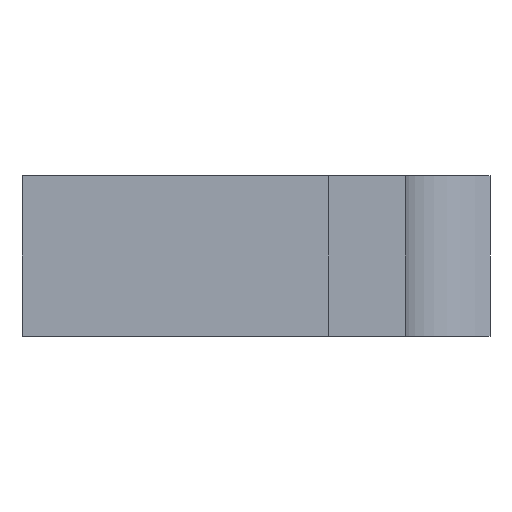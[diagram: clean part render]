
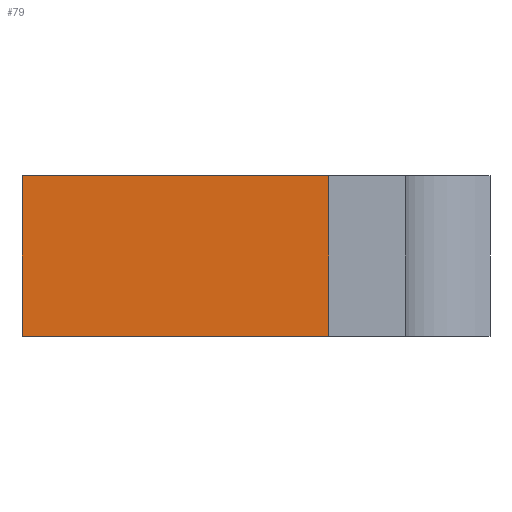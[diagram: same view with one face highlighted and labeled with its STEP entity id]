
A CAD part, front view. The second image highlights one B-rep face of the part: STEP entity #79.
In plain terms, the highlighted planar face has unit normal (0, -1, 0).
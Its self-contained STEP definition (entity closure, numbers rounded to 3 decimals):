
#5 = ORIENTED_EDGE ( 'NONE', *, *, #715, .F. ) ;
#13 = AXIS2_PLACEMENT_3D ( 'NONE', #502, #183, #891 ) ;
#45 = CARTESIAN_POINT ( 'NONE',  ( 0., 0., -10. ) ) ;
#47 = EDGE_CURVE ( 'NONE', #94, #341, #560, .T. ) ;
#79 = ADVANCED_FACE ( 'NONE', ( #83 ), #688, .T. ) ;
#83 = FACE_OUTER_BOUND ( 'NONE', #753, .T. ) ;
#94 = VERTEX_POINT ( 'NONE', #587 ) ;
#104 = DIRECTION ( 'NONE',  ( 0., 0., 1. ) ) ;
#183 = DIRECTION ( 'NONE',  ( 0., -1., 0. ) ) ;
#217 = VECTOR ( 'NONE', #365, 1000. ) ;
#341 = VERTEX_POINT ( 'NONE', #375 ) ;
#365 = DIRECTION ( 'NONE',  ( 1., 0., 0. ) ) ;
#375 = CARTESIAN_POINT ( 'NONE',  ( 19.844, 0., 0. ) ) ;
#390 = ORIENTED_EDGE ( 'NONE', *, *, #482, .T. ) ;
#425 = ORIENTED_EDGE ( 'NONE', *, *, #47, .F. ) ;
#482 = EDGE_CURVE ( 'NONE', #974, #914, #933, .T. ) ;
#502 = CARTESIAN_POINT ( 'NONE',  ( 0., 0., -10. ) ) ;
#560 = LINE ( 'NONE', #1239, #217 ) ;
#587 = CARTESIAN_POINT ( 'NONE',  ( 0., 0., 0. ) ) ;
#679 = VECTOR ( 'NONE', #886, 1000. ) ;
#688 = PLANE ( 'NONE',  #13 ) ;
#695 = LINE ( 'NONE', #787, #1118 ) ;
#715 = EDGE_CURVE ( 'NONE', #974, #94, #1143, .T. ) ;
#753 = EDGE_LOOP ( 'NONE', ( #425, #5, #390, #1159 ) ) ;
#766 = EDGE_CURVE ( 'NONE', #914, #341, #695, .T. ) ;
#787 = CARTESIAN_POINT ( 'NONE',  ( 19.844, 0., -10. ) ) ;
#886 = DIRECTION ( 'NONE',  ( 0., 0., 1. ) ) ;
#891 = DIRECTION ( 'NONE',  ( 0., 0., -1. ) ) ;
#914 = VERTEX_POINT ( 'NONE', #957 ) ;
#919 = DIRECTION ( 'NONE',  ( 1., 0., 0. ) ) ;
#933 = LINE ( 'NONE', #45, #1021 ) ;
#957 = CARTESIAN_POINT ( 'NONE',  ( 19.844, 0., -10. ) ) ;
#974 = VERTEX_POINT ( 'NONE', #1257 ) ;
#1021 = VECTOR ( 'NONE', #919, 1000. ) ;
#1047 = CARTESIAN_POINT ( 'NONE',  ( 0., 0., -10. ) ) ;
#1118 = VECTOR ( 'NONE', #104, 1000. ) ;
#1143 = LINE ( 'NONE', #1047, #679 ) ;
#1159 = ORIENTED_EDGE ( 'NONE', *, *, #766, .T. ) ;
#1239 = CARTESIAN_POINT ( 'NONE',  ( 0., 0., 0. ) ) ;
#1257 = CARTESIAN_POINT ( 'NONE',  ( 0., 0., -10. ) ) ;
